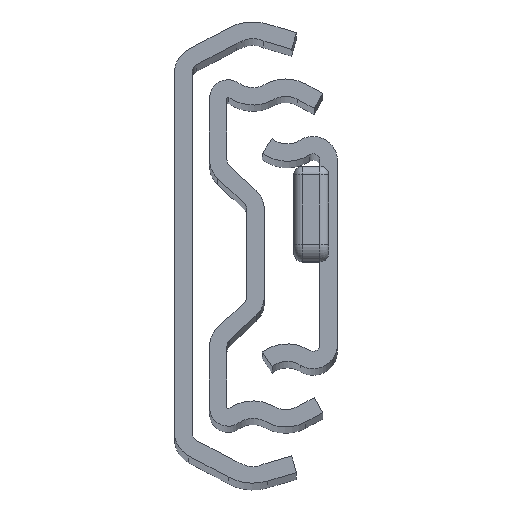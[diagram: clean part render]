
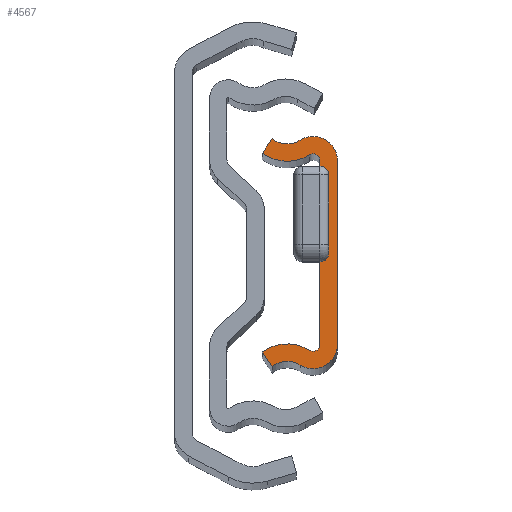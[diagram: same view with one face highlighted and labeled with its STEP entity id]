
A CAD part, top view. The second image highlights one B-rep face of the part: STEP entity #4567.
In plain terms, the highlighted planar face has unit normal (0, 0, 1).
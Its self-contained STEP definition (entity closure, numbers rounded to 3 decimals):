
#270 = DIRECTION ( 'NONE',  ( 1., 0., 0. ) ) ;
#927 = DIRECTION ( 'NONE',  ( -1., 0., 0. ) ) ;
#1047 = CARTESIAN_POINT ( 'NONE',  ( -1.47, 15.294, 0. ) ) ;
#1139 = CIRCLE ( 'NONE', #17278, 0.8 ) ;
#1238 = DIRECTION ( 'NONE',  ( 0., 0., -1. ) ) ;
#1269 = CARTESIAN_POINT ( 'NONE',  ( 2.306, -10.55, 0. ) ) ;
#1685 = CARTESIAN_POINT ( 'NONE',  ( 4.306, -10.55, 0. ) ) ;
#2086 = CARTESIAN_POINT ( 'NONE',  ( -1.47, 15.294, 0. ) ) ;
#2569 = EDGE_CURVE ( 'NONE', #4536, #11926, #27163, .T. ) ;
#2916 = DIRECTION ( 'NONE',  ( 0., 0., 1. ) ) ;
#2941 = ORIENTED_EDGE ( 'NONE', *, *, #6550, .T. ) ;
#3106 = AXIS2_PLACEMENT_3D ( 'NONE', #6651, #32874, #30128 ) ;
#3861 = CARTESIAN_POINT ( 'NONE',  ( 1.081, 11.228, 0. ) ) ;
#3993 = DIRECTION ( 'NONE',  ( -0.555, -0.832, 0. ) ) ;
#4033 = CARTESIAN_POINT ( 'NONE',  ( 4.306, 10.55, 0. ) ) ;
#4158 = VERTEX_POINT ( 'NONE', #3861 ) ;
#4168 = VERTEX_POINT ( 'NONE', #32783 ) ;
#4322 = VECTOR ( 'NONE', #22277, 1000. ) ;
#4536 = VERTEX_POINT ( 'NONE', #8138 ) ;
#4567 = ADVANCED_FACE ( 'Face2', ( #22719 ), #31503, .T. ) ;
#4740 = CARTESIAN_POINT ( 'NONE',  ( -4.306, 11.422, 0. ) ) ;
#5790 = EDGE_CURVE ( 'NONE', #15706, #27487, #13700, .T. ) ;
#6067 = DIRECTION ( 'NONE',  ( 0., 0., 1. ) ) ;
#6550 = EDGE_CURVE ( 'NONE', #27487, #4168, #28747, .T. ) ;
#6651 = CARTESIAN_POINT ( 'NONE',  ( 1.506, 10.55, 0. ) ) ;
#8124 = CARTESIAN_POINT ( 'NONE',  ( -1.47, -15.294, 0. ) ) ;
#8138 = CARTESIAN_POINT ( 'NONE',  ( 4.306, -10.55, 0. ) ) ;
#8323 = AXIS2_PLACEMENT_3D ( 'NONE', #2086, #9709, #33303 ) ;
#8750 = CIRCLE ( 'NONE', #3106, 2.8 ) ;
#8940 = ORIENTED_EDGE ( 'NONE', *, *, #15748, .T. ) ;
#8999 = DIRECTION ( 'NONE',  ( 1., 0., 0. ) ) ;
#9126 = LINE ( 'NONE', #17459, #17692 ) ;
#9709 = DIRECTION ( 'NONE',  ( 0., 0., -1. ) ) ;
#10065 = DIRECTION ( 'NONE',  ( 0., -1., 0. ) ) ;
#10725 = ORIENTED_EDGE ( 'NONE', *, *, #17600, .T. ) ;
#10773 = VECTOR ( 'NONE', #3993, 1000. ) ;
#10830 = AXIS2_PLACEMENT_3D ( 'NONE', #26710, #2916, #270 ) ;
#11926 = VERTEX_POINT ( 'NONE', #4033 ) ;
#12944 = DIRECTION ( 'NONE',  ( 0., 0., 1. ) ) ;
#13324 = DIRECTION ( 'NONE',  ( 1., 0., 0. ) ) ;
#13442 = CARTESIAN_POINT ( 'NONE',  ( -1.47, -15.294, 0. ) ) ;
#13700 = LINE ( 'NONE', #27418, #4322 ) ;
#14370 = AXIS2_PLACEMENT_3D ( 'NONE', #13442, #28685, #13324 ) ;
#15232 = CIRCLE ( 'NONE', #15746, 4.8 ) ;
#15287 = VERTEX_POINT ( 'NONE', #1269 ) ;
#15706 = VERTEX_POINT ( 'NONE', #19415 ) ;
#15746 = AXIS2_PLACEMENT_3D ( 'NONE', #1047, #16519, #927 ) ;
#15748 = EDGE_CURVE ( 'NONE', #19323, #31166, #31569, .T. ) ;
#16519 = DIRECTION ( 'NONE',  ( 0., 0., 1. ) ) ;
#16522 = EDGE_CURVE ( 'NONE', #25532, #19323, #27479, .T. ) ;
#16632 = CARTESIAN_POINT ( 'NONE',  ( 1.506, -10.55, 0. ) ) ;
#16815 = EDGE_CURVE ( 'NONE', #31166, #4158, #15232, .T. ) ;
#16954 = VECTOR ( 'NONE', #25363, 1000. ) ;
#17043 = CARTESIAN_POINT ( 'NONE',  ( -4.306, 11.422, 0. ) ) ;
#17278 = AXIS2_PLACEMENT_3D ( 'NONE', #29637, #27119, #21749 ) ;
#17459 = CARTESIAN_POINT ( 'NONE',  ( 2.306, -10.55, 0. ) ) ;
#17600 = EDGE_CURVE ( 'NONE', #4158, #17995, #21932, .T. ) ;
#17692 = VECTOR ( 'NONE', #10065, 1000. ) ;
#17995 = VERTEX_POINT ( 'NONE', #19115 ) ;
#18015 = EDGE_CURVE ( 'NONE', #15287, #30166, #1139, .T. ) ;
#19115 = CARTESIAN_POINT ( 'NONE',  ( 2.306, 10.55, 0. ) ) ;
#19188 = CARTESIAN_POINT ( 'NONE',  ( 1.506, 10.55, 0. ) ) ;
#19323 = VERTEX_POINT ( 'NONE', #20507 ) ;
#19415 = CARTESIAN_POINT ( 'NONE',  ( -4.306, -11.422, 0. ) ) ;
#19489 = ORIENTED_EDGE ( 'NONE', *, *, #2569, .T. ) ;
#19708 = ORIENTED_EDGE ( 'NONE', *, *, #25214, .T. ) ;
#20237 = CARTESIAN_POINT ( 'NONE',  ( 0.018, 12.922, 0. ) ) ;
#20507 = CARTESIAN_POINT ( 'NONE',  ( -3.194, 13.089, 0. ) ) ;
#21028 = ORIENTED_EDGE ( 'NONE', *, *, #31284, .T. ) ;
#21724 = AXIS2_PLACEMENT_3D ( 'NONE', #16632, #6067, #8999 ) ;
#21749 = DIRECTION ( 'NONE',  ( 1., 0., 0. ) ) ;
#21932 = CIRCLE ( 'NONE', #24928, 0.8 ) ;
#22277 = DIRECTION ( 'NONE',  ( 0.555, -0.832, 0. ) ) ;
#22719 = FACE_OUTER_BOUND ( 'NONE', #25606, .T. ) ;
#23499 = DIRECTION ( 'NONE',  ( 1., 0., 0. ) ) ;
#24164 = CARTESIAN_POINT ( 'NONE',  ( 1.081, -11.228, 0. ) ) ;
#24928 = AXIS2_PLACEMENT_3D ( 'NONE', #19188, #1238, #27194 ) ;
#25214 = EDGE_CURVE ( 'NONE', #4168, #4536, #26531, .T. ) ;
#25363 = DIRECTION ( 'NONE',  ( 0., 1., 0. ) ) ;
#25532 = VERTEX_POINT ( 'NONE', #20237 ) ;
#25606 = EDGE_LOOP ( 'NONE', ( #2941, #19708, #19489, #26495, #27155, #8940, #30609, #10725, #28289, #26103, #21028, #31786 ) ) ;
#26103 = ORIENTED_EDGE ( 'NONE', *, *, #18015, .T. ) ;
#26495 = ORIENTED_EDGE ( 'NONE', *, *, #29891, .T. ) ;
#26531 = CIRCLE ( 'NONE', #21724, 2.8 ) ;
#26710 = CARTESIAN_POINT ( 'NONE',  ( -1.47, -15.294, 0. ) ) ;
#27119 = DIRECTION ( 'NONE',  ( 0., 0., -1. ) ) ;
#27155 = ORIENTED_EDGE ( 'NONE', *, *, #16522, .T. ) ;
#27163 = LINE ( 'NONE', #1685, #16954 ) ;
#27194 = DIRECTION ( 'NONE',  ( -1., 0., 0. ) ) ;
#27418 = CARTESIAN_POINT ( 'NONE',  ( -4.306, -11.422, 0. ) ) ;
#27479 = CIRCLE ( 'NONE', #8323, 2.8 ) ;
#27487 = VERTEX_POINT ( 'NONE', #27717 ) ;
#27717 = CARTESIAN_POINT ( 'NONE',  ( -3.194, -13.089, 0. ) ) ;
#28289 = ORIENTED_EDGE ( 'NONE', *, *, #30313, .T. ) ;
#28685 = DIRECTION ( 'NONE',  ( 0., 0., -1. ) ) ;
#28747 = CIRCLE ( 'NONE', #14370, 2.8 ) ;
#29637 = CARTESIAN_POINT ( 'NONE',  ( 1.506, -10.55, 0. ) ) ;
#29891 = EDGE_CURVE ( 'NONE', #11926, #25532, #8750, .T. ) ;
#30128 = DIRECTION ( 'NONE',  ( -1., 0., 0. ) ) ;
#30166 = VERTEX_POINT ( 'NONE', #24164 ) ;
#30271 = CIRCLE ( 'NONE', #30835, 4.8 ) ;
#30313 = EDGE_CURVE ( 'NONE', #17995, #15287, #9126, .T. ) ;
#30609 = ORIENTED_EDGE ( 'NONE', *, *, #16815, .T. ) ;
#30835 = AXIS2_PLACEMENT_3D ( 'NONE', #8124, #12944, #23499 ) ;
#31166 = VERTEX_POINT ( 'NONE', #4740 ) ;
#31284 = EDGE_CURVE ( 'NONE', #30166, #15706, #30271, .T. ) ;
#31503 = PLANE ( 'NONE',  #10830 ) ;
#31569 = LINE ( 'NONE', #17043, #10773 ) ;
#31786 = ORIENTED_EDGE ( 'NONE', *, *, #5790, .T. ) ;
#32783 = CARTESIAN_POINT ( 'NONE',  ( 0.018, -12.922, 0. ) ) ;
#32874 = DIRECTION ( 'NONE',  ( 0., 0., 1. ) ) ;
#33303 = DIRECTION ( 'NONE',  ( -1., 0., 0. ) ) ;
